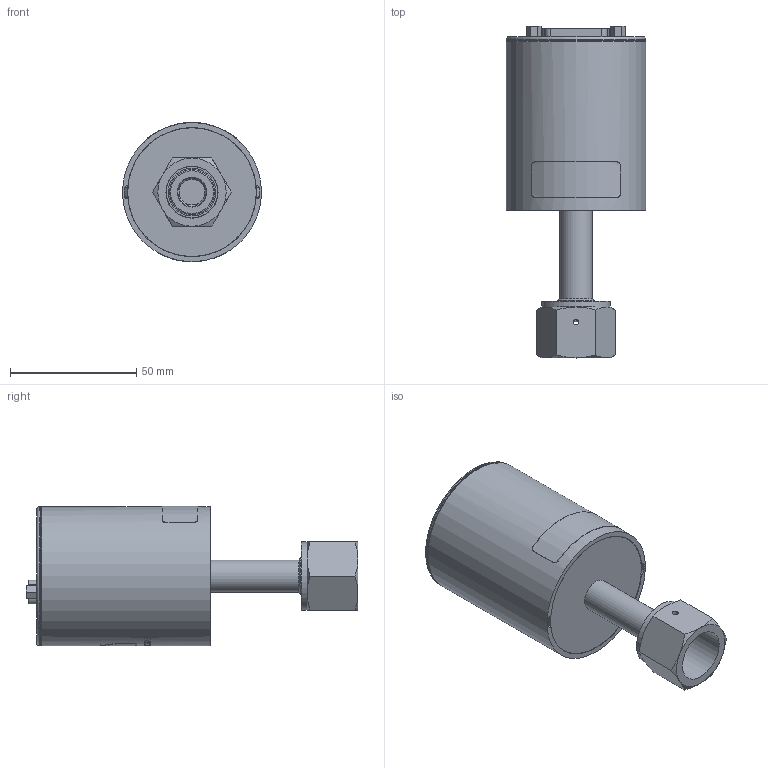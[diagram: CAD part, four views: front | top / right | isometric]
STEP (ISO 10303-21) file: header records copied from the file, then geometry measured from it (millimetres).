
FILE_DESCRIPTION(/* description */ (''),/* implementation_level */ '2;1');
FILE_NAME(/* name */ 'Linxon 8 VCR.stp',/* time_stamp */ '2024-03-14T15:33:08+01:00',/* author */ ('quen001'),/* organization */ (''),/* preprocessor_version */ 'ST-DEVELOPER v19.2',/* originating_system */ 'Autodesk Inventor 2023',/* authorisation */ '');
FILE_SCHEMA (('AUTOMOTIVE_DESIGN { 1 0 10303 214 3 1 1 }'));
Length unit declared in the file: millimetre
Products named in the file (1): Linxon 8 VCR
Bounding box: 55 x 131.22 x 55.1 mm (x, y, z)
Volume: 174607.7 mm3; surface area: 46134.1 mm2
Topology: 1 solids, 3 shells, 498 faces, 1288 edges, 849 vertices
Faces by surface type: plane 252, cylinder 112, bspline 59, cone 58, sphere 15, torus 2
Full cylindrical faces by diameter (mm): 0.8 x15, 1.3 x1, 2.156 x2, 2.286 x2, 2.8 x1, 2.845 x2, 2.9 x1, 3.2 x3, 3.5 x1, 10.16 x1, 10.2 x1, 10.6 x1, 12.7 x1, 14.46 x1, 15.494 x1, 18.796 x1, 20.32 x1, 20.574 x1, 26.988 x1, 50.85 x1, 51 x1, 54.2 x1, 54.8 x1, 55 x1
Entity records: 17757 total; most frequent: CARTESIAN_POINT 5279, ORIENTED_EDGE 2546, DIRECTION 2292, EDGE_CURVE 1273, VERTEX_POINT 847, AXIS2_PLACEMENT_3D 829, LINE 634, VECTOR 634
